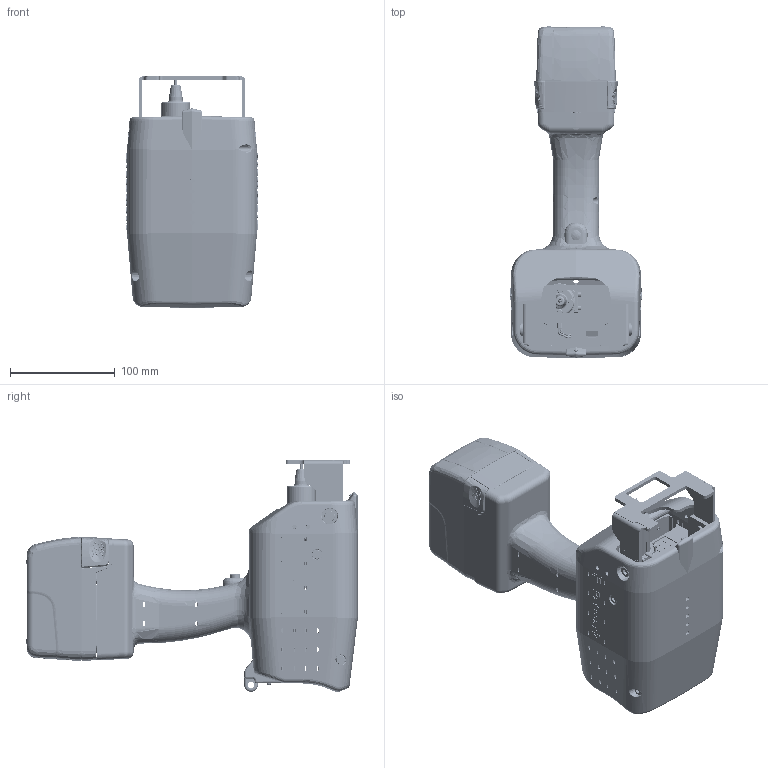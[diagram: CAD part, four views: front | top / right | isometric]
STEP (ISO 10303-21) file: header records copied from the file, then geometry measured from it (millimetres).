
FILE_DESCRIPTION (( 'STEP AP203' ), '1' );
FILE_NAME ('Patmark_180620 HP—p 3D Battery type.STEP', '2018-12-05T04:01:50', ( '' ), ( '' ), 'SwSTEP 2.0', 'SolidWorks 2016', '' );
FILE_SCHEMA (( 'CONFIG_CONTROL_DESIGN' ));
Products named in the file (1): Patmark_180620 HP用 3D Battery type
Bounding box: 125.6 x 316.5 x 221 mm (x, y, z)
Volume: 753602.6 mm3; surface area: 616201.2 mm2
Topology: 118 solids, 118 shells, 7973 faces, 20471 edges, 12890 vertices
Faces by surface type: plane 3538, cylinder 2027, bspline 1317, cone 950, torus 101, sphere 40
Entity records: 328956 total; most frequent: CARTESIAN_POINT 146074, ORIENTED_EDGE 40650, DIRECTION 34321, EDGE_CURVE 20325, VERTEX_POINT 12888, AXIS2_PLACEMENT_3D 11743, LINE 10835, VECTOR 10835
